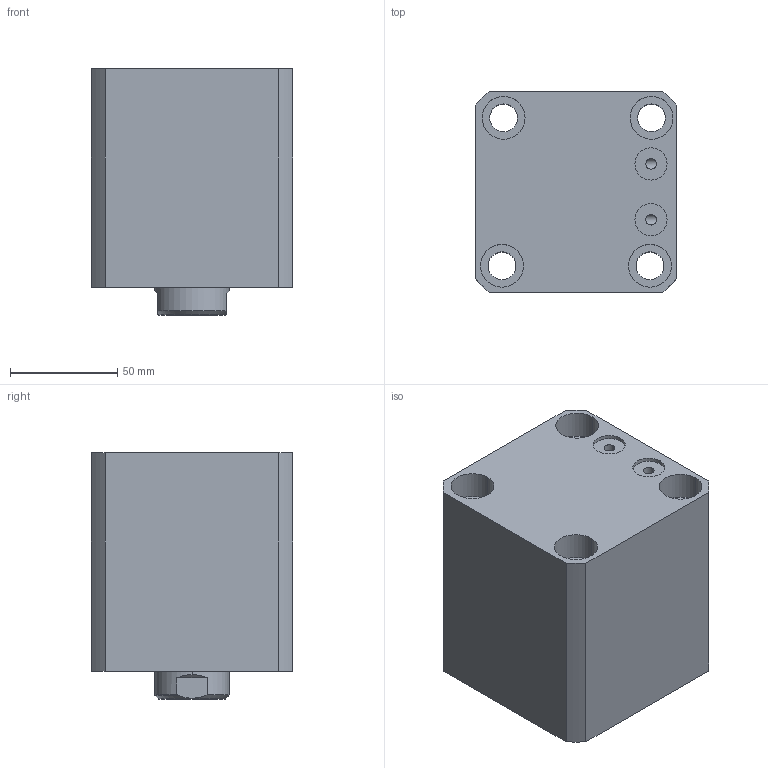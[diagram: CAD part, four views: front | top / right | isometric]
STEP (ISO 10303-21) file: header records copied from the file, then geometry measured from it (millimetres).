
FILE_DESCRIPTION (( 'STEP AP214' ), '1' );
FILE_NAME ('chtb-sdmb63x35n_asm.STEP', '2018-05-16T06:49:24', ( 'Windows' ), ( 'Microsoft' ), 'SwSTEP 2.0', 'SolidWorks 2015', '' );
FILE_SCHEMA (( 'AUTOMOTIVE_DESIGN' ));
Length unit declared in the file: millimetre
Products named in the file (4): CHTB-SDMB63X35NBT; CHTB63X35NHSG; CHTB-63QG; chtb-sdmb63x35n_asm
Assembly tree (3 placements, depth 2):
  chtb-sdmb63x35n_asm
    CHTB-63QG
    CHTB63X35NHSG
    CHTB-SDMB63X35NBT
Bounding box: 94 x 94 x 115 mm (x, y, z)
Volume: 745090.7 mm3; surface area: 132395.8 mm2
Topology: 3 solids, 3 shells, 164 faces, 468 edges, 318 vertices
Faces by surface type: cylinder 107, plane 30, bspline 12, cone 8, torus 7
Entity records: 17708 total; most frequent: CARTESIAN_POINT 13594, ORIENTED_EDGE 924, DIRECTION 707, EDGE_CURVE 462, VERTEX_POINT 318, AXIS2_PLACEMENT_3D 284, EDGE_LOOP 196, FACE_OUTER_BOUND 164
